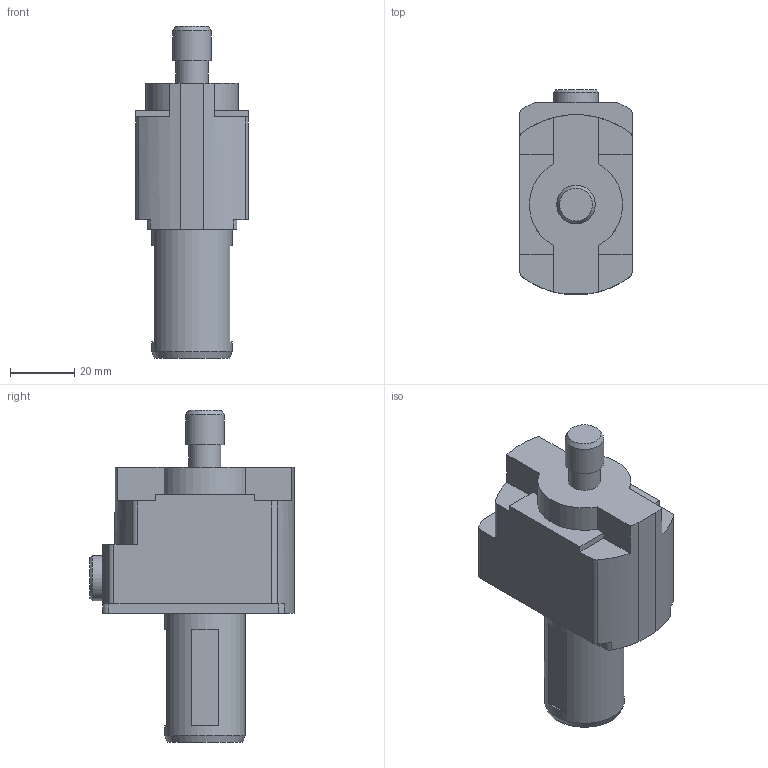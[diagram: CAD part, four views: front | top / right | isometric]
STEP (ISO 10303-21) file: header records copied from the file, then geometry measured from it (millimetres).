
FILE_DESCRIPTION (( 'STEP AP214' ), '1' );
FILE_NAME ('97-000-250 - light.STEP', '2025-06-08T13:18:03', ( 'pc' ), ( '' ), 'SwSTEP 2.0', 'SolidWorks 2024', '' );
FILE_SCHEMA (( 'AUTOMOTIVE_DESIGN' ));
Length unit declared in the file: millimetre
Products named in the file (1): 97-000-250 - light
Bounding box: 35 x 63.5 x 103.3 mm (x, y, z)
Volume: 99828.5 mm3; surface area: 15864.7 mm2
Topology: 1 solids, 1 shells, 68 faces, 168 edges, 110 vertices
Faces by surface type: plane 40, cylinder 23, cone 5
Full cylindrical faces by diameter (mm): 10 x1, 12 x1, 14 x2, 15 x1, 25 x1
Entity records: 1963 total; most frequent: DIRECTION 354, CARTESIAN_POINT 329, ORIENTED_EDGE 306, EDGE_CURVE 153, AXIS2_PLACEMENT_3D 132, VERTEX_POINT 107, VECTOR 90, LINE 90
